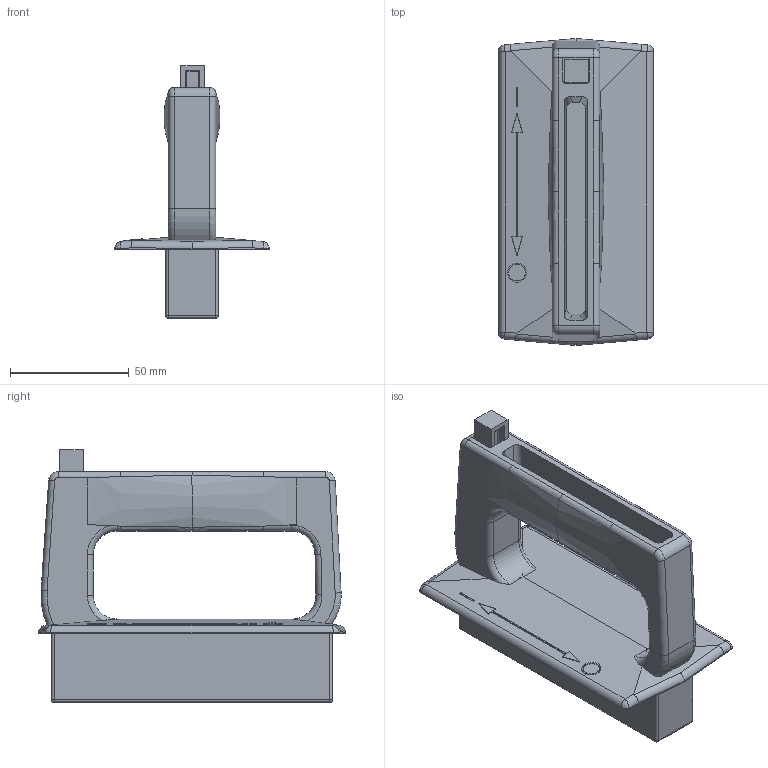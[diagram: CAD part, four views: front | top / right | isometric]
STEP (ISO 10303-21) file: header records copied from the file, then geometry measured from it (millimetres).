
FILE_DESCRIPTION (( 'STEP AP214' ), '1' );
FILE_NAME ('DRZADLO_885012_-_0.STEP', '2024-05-15T05:17:11', ( '' ), ( '' ), 'SwSTEP 2.0', 'SolidWorks 2015', '' );
FILE_SCHEMA (( 'AUTOMOTIVE_DESIGN' ));
Length unit declared in the file: millimetre
Products named in the file (8): PASEK_595204_-_0_Z00; drzadlo_589006_e_1_Z00; MATICE_ISO4035_M5_NA010132_-_0; Sroub_DIN7985A_M5x10_NA010008_-_0; DRZAK_586549_-_0_Z00; TLACITKO_538036_-_0_Z00; PRUZINA_450424_b_0_d‚lka 19; DRZADLO_885012_-_0
Assembly tree (13 placements, depth 2):
  DRZADLO_885012_-_0
    MATICE_ISO4035_M5_NA010132_-_0  x3
    drzadlo_589006_e_1_Z00
    PRUZINA_450424_b_0_d‚lka 19
    TLACITKO_538036_-_0_Z00
    DRZAK_586549_-_0_Z00  x3
    Sroub_DIN7985A_M5x10_NA010008_-_0  x3
    PASEK_595204_-_0_Z00
Bounding box: 65 x 129 x 106.2 mm (x, y, z)
Volume: 147626 mm3; surface area: 67768.2 mm2
Topology: 13 solids, 13 shells, 751 faces, 1948 edges, 1218 vertices
Faces by surface type: plane 443, cylinder 188, cone 60, bspline 26, sphere 18, torus 16
Entity records: 20831 total; most frequent: CARTESIAN_POINT 8119, ORIENTED_EDGE 2656, DIRECTION 2476, EDGE_CURVE 1328, VECTOR 902, LINE 902, VERTEX_POINT 840, AXIS2_PLACEMENT_3D 787
